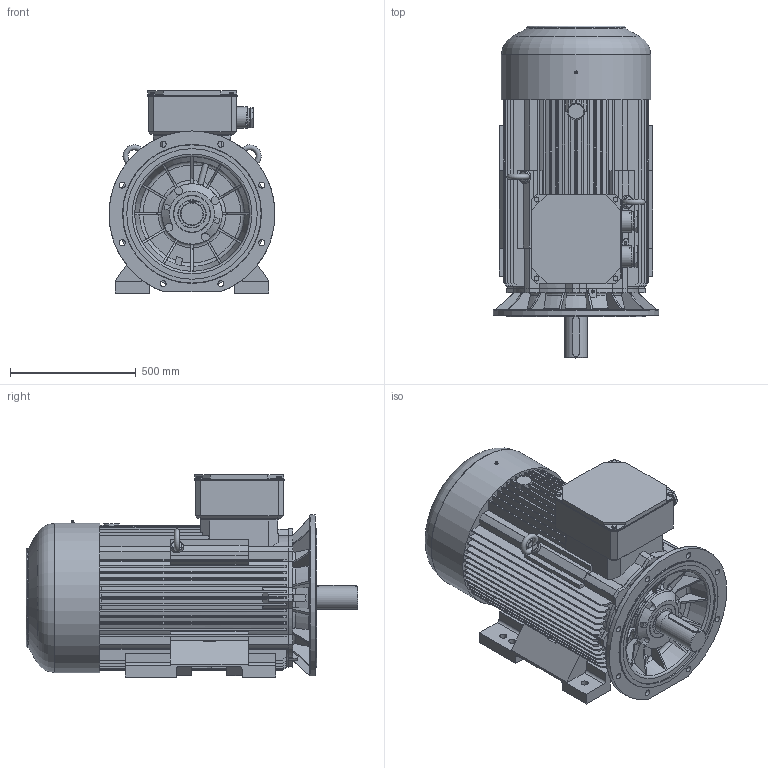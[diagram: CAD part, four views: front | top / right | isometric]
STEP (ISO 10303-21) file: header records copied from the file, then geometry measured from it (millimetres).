
FILE_DESCRIPTION( ( 'Unknown' ), '1' );
FILE_NAME( 'C:/Documents and Settings/kwalica/Pulpit/2,3 SIE paczka/3SIE 315/STP/2SIEL315M6D.stp', 'Unknown', ( 'Unknown' ), ( 'Unknown' ), 'XStep 1.0', 'Unknown', ' ' );
FILE_SCHEMA( ( 'CONFIG_CONTROL_DESIGN' ) );
Length unit declared in the file: millimetre
Products named in the file (6): 1; 2; 3; 4; 5; 6
Bounding box: 660 x 1320 x 804.5 mm (x, y, z)
Volume: 289866474.3 mm3; surface area: 7511181.7 mm2
Topology: 6 solids, 22 shells, 1425 faces, 3903 edges, 2577 vertices
Faces by surface type: plane 890, cylinder 296, cone 118, torus 105, bspline 16
Full cylindrical faces by diameter (mm): 1.6 x2, 5 x4, 10.106 x4, 13.835 x1, 16.63 x4, 24 x12, 28 x6, 50 x2, 55 x2, 57 x4, 65 x4, 70 x2, 71 x6, 72 x2, 72.752 x2, 76 x2, 85 x2, 89.5 x1, 89.999 x1, 90 x1, 99.4 x1, 100 x1, 111.399 x1, 112 x1, 119.4 x1, 119.999 x1, 131.399 x1, 132 x1, 139.4 x1, 139.999 x1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
Entity records: 53962 total; most frequent: CARTESIAN_POINT 18540, ORIENTED_EDGE 7386, DIRECTION 7066, EDGE_CURVE 3693, VERTEX_POINT 2503, AXIS2_PLACEMENT_3D 2423, LINE 2220, VECTOR 2220
